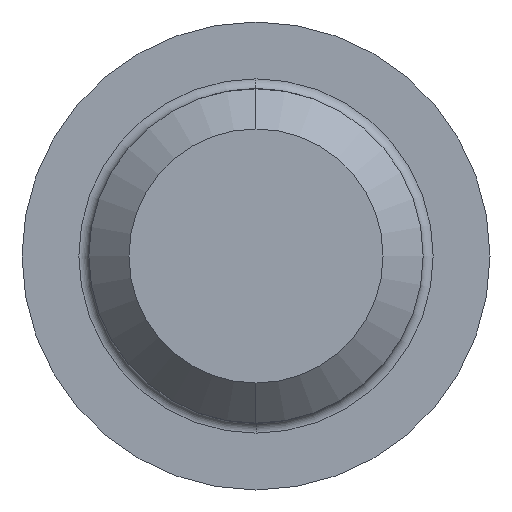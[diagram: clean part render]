
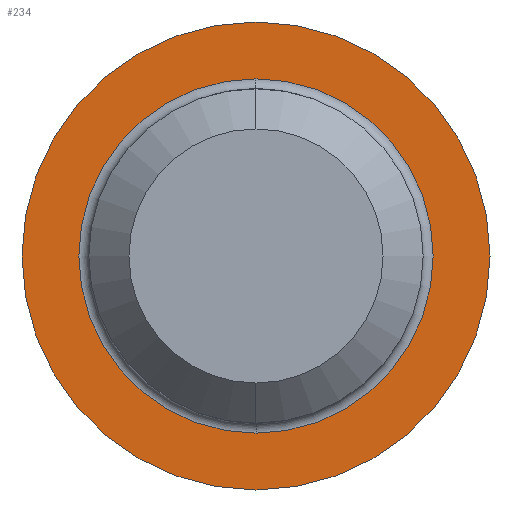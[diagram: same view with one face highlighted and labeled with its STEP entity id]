
A CAD part, left-side view. The second image highlights one B-rep face of the part: STEP entity #234.
In plain terms, the highlighted planar face has unit normal (-1, 0, 0).
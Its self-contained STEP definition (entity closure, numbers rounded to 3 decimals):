
#11 = ORIENTED_EDGE ( 'NONE', *, *, #140, .T. ) ;
#20 = VERTEX_POINT ( 'NONE', #225 ) ;
#26 = EDGE_CURVE ( 'NONE', #27, #92, #174, .T. ) ;
#27 = VERTEX_POINT ( 'NONE', #231 ) ;
#81 = VERTEX_POINT ( 'NONE', #305 ) ;
#92 = VERTEX_POINT ( 'NONE', #384 ) ;
#106 = EDGE_CURVE ( 'NONE', #20, #81, #465, .T. ) ;
#140 = EDGE_CURVE ( 'NONE', #92, #27, #472, .T. ) ;
#172 = CARTESIAN_POINT ( 'NONE',  ( 0., 0., 0. ) ) ;
#174 = CIRCLE ( 'NONE', #178, 7. ) ;
#176 = DIRECTION ( 'NONE',  ( 0., 0., 1. ) ) ;
#177 = DIRECTION ( 'NONE',  ( -1., 0., 0. ) ) ;
#178 = AXIS2_PLACEMENT_3D ( 'NONE', #172, #177, #176 ) ;
#182 = EDGE_LOOP ( 'NONE', ( #284, #243 ) ) ;
#225 = CARTESIAN_POINT ( 'NONE',  ( 0., 0., 5.3 ) ) ;
#231 = CARTESIAN_POINT ( 'NONE',  ( 0., 0., 7. ) ) ;
#234 = ADVANCED_FACE ( 'NONE', ( #318, #388 ), #348, .F. ) ;
#243 = ORIENTED_EDGE ( 'NONE', *, *, #106, .T. ) ;
#244 = EDGE_CURVE ( 'NONE', #81, #20, #387, .T. ) ;
#259 = EDGE_LOOP ( 'NONE', ( #298, #11 ) ) ;
#284 = ORIENTED_EDGE ( 'NONE', *, *, #244, .T. ) ;
#298 = ORIENTED_EDGE ( 'NONE', *, *, #26, .T. ) ;
#305 = CARTESIAN_POINT ( 'NONE',  ( 0., 0., -5.3 ) ) ;
#318 = FACE_BOUND ( 'NONE', #182, .T. ) ;
#320 = CARTESIAN_POINT ( 'NONE',  ( 0., 0., 0. ) ) ;
#346 = DIRECTION ( 'NONE',  ( 0., 0., -1. ) ) ;
#347 = DIRECTION ( 'NONE',  ( 1., 0., 0. ) ) ;
#348 = PLANE ( 'NONE',  #473 ) ;
#384 = CARTESIAN_POINT ( 'NONE',  ( 0., 0., -7. ) ) ;
#387 = CIRCLE ( 'NONE', #461, 5.3 ) ;
#388 = FACE_OUTER_BOUND ( 'NONE', #259, .T. ) ;
#404 = DIRECTION ( 'NONE',  ( 0., 0., -1. ) ) ;
#405 = DIRECTION ( 'NONE',  ( 1., 0., 0. ) ) ;
#406 = CARTESIAN_POINT ( 'NONE',  ( 0., 0., 0. ) ) ;
#452 = AXIS2_PLACEMENT_3D ( 'NONE', #406, #405, #404 ) ;
#458 = DIRECTION ( 'NONE',  ( 0., 0., -1. ) ) ;
#459 = DIRECTION ( 'NONE',  ( 1., 0., 0. ) ) ;
#460 = CARTESIAN_POINT ( 'NONE',  ( 0., 0., 0. ) ) ;
#461 = AXIS2_PLACEMENT_3D ( 'NONE', #460, #459, #458 ) ;
#465 = CIRCLE ( 'NONE', #452, 5.3 ) ;
#471 = AXIS2_PLACEMENT_3D ( 'NONE', #320, #490, #489 ) ;
#472 = CIRCLE ( 'NONE', #471, 7. ) ;
#473 = AXIS2_PLACEMENT_3D ( 'NONE', #488, #347, #346 ) ;
#488 = CARTESIAN_POINT ( 'NONE',  ( 0., 7., 0. ) ) ;
#489 = DIRECTION ( 'NONE',  ( 0., 0., 1. ) ) ;
#490 = DIRECTION ( 'NONE',  ( -1., 0., 0. ) ) ;
